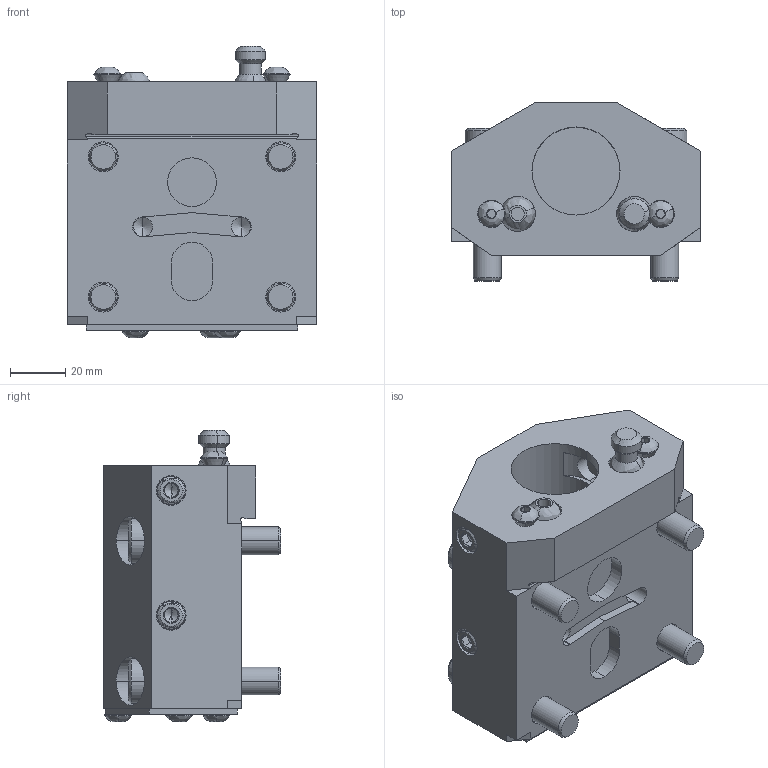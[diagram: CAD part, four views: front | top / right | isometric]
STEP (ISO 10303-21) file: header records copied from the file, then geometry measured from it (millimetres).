
FILE_DESCRIPTION (( 'STEP AP203' ), '1' );
FILE_NAME ('04-0788.STEP', '2022-07-19T15:10:48', ( '' ), ( '' ), 'SwSTEP 2.0', 'SolidWorks 2021', '' );
FILE_SCHEMA (( 'CONFIG_CONTROL_DESIGN' ));
Length unit declared in the file: inch
Products named in the file (12): 20-2077; 40-0003_40-0003; 57-0026; 10000011170; 44-0001_44-0002; 25-4142; 20-3137; 22-8749; 04-0788; 58-1627; 20-10441A; 40-16583
Assembly tree (23 placements, depth 3):
  04-0788
    10000011170
      20-10441A
      22-8749  x2
      25-4142
      58-1627
      57-0026  x2
      40-16583  x4
      40-0003_40-0003  x5
      44-0001_44-0002  x4
      20-3137
      20-2077
Bounding box: 90 x 64.06 x 105.11 mm (x, y, z)
Volume: 275984.5 mm3; surface area: 79215.1 mm2
Topology: 22 solids, 23 shells, 1216 faces, 2923 edges, 1749 vertices
Faces by surface type: cylinder 610, cone 348, plane 224, bspline 34
Entity records: 18774 total; most frequent: CARTESIAN_POINT 6868, ORIENTED_EDGE 2174, DIRECTION 2136, EDGE_CURVE 1087, AXIS2_PLACEMENT_3D 828, VERTEX_POINT 676, EDGE_LOOP 511, LINE 480
